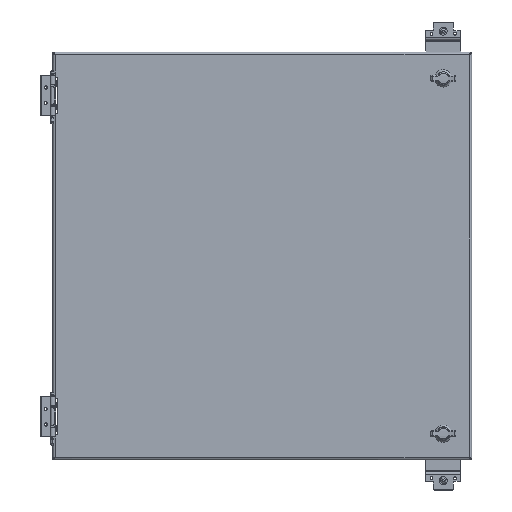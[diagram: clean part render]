
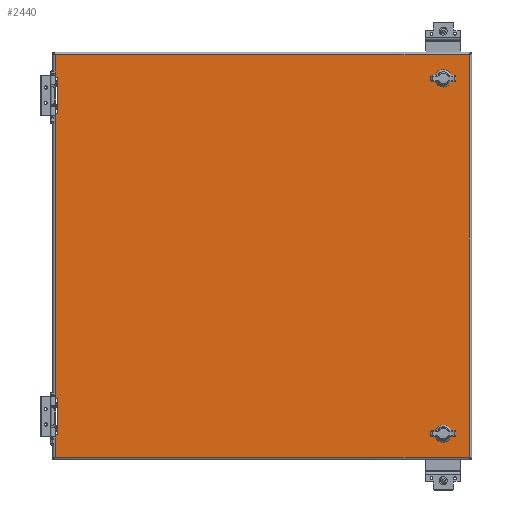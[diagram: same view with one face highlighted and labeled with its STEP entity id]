
A CAD part, top view. The second image highlights one B-rep face of the part: STEP entity #2440.
In plain terms, the highlighted planar face has unit normal (0, 0, 1).
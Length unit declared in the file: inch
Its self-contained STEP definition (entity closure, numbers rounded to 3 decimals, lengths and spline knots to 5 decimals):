
#16=CARTESIAN_POINT('',(11.545,11.325,0.));
#17=DIRECTION('',(0.,0.,1.));
#18=DIRECTION('',(-0.448,0.894,0.));
#19=AXIS2_PLACEMENT_3D('',#16,#17,#18);
#25=DIRECTION('',(0.,-1.,0.));
#26=VECTOR('',#25,0.39715);
#27=CARTESIAN_POINT('',(11.149,11.52358,0.));
#28=LINE('',#27,#26);
#32=CARTESIAN_POINT('',(11.545,11.325,0.));
#33=DIRECTION('',(0.,0.,1.));
#34=DIRECTION('',(-0.894,-0.448,0.));
#35=AXIS2_PLACEMENT_3D('',#32,#33,#34);
#40=DIRECTION('',(1.,0.,0.));
#41=VECTOR('',#40,0.39715);
#42=CARTESIAN_POINT('',(11.34642,10.929,0.));
#43=LINE('',#42,#41);
#47=CARTESIAN_POINT('',(11.545,11.325,0.));
#48=DIRECTION('',(0.,0.,1.));
#49=DIRECTION('',(0.448,-0.894,0.));
#50=AXIS2_PLACEMENT_3D('',#47,#48,#49);
#55=DIRECTION('',(0.,1.,0.));
#56=VECTOR('',#55,0.39715);
#57=CARTESIAN_POINT('',(11.941,11.12642,0.));
#58=LINE('',#57,#56);
#62=CARTESIAN_POINT('',(11.545,11.325,0.));
#63=DIRECTION('',(0.,0.,1.));
#64=DIRECTION('',(0.894,0.448,0.));
#65=AXIS2_PLACEMENT_3D('',#62,#63,#64);
#70=DIRECTION('',(-1.,0.,0.));
#71=VECTOR('',#70,0.39715);
#72=CARTESIAN_POINT('',(11.74358,11.721,0.));
#73=LINE('',#72,#71);
#77=CARTESIAN_POINT('',(11.545,-11.325,0.));
#78=DIRECTION('',(0.,0.,1.));
#79=DIRECTION('',(-0.448,0.894,0.));
#80=AXIS2_PLACEMENT_3D('',#77,#78,#79);
#85=DIRECTION('',(0.,-1.,0.));
#86=VECTOR('',#85,0.39715);
#87=CARTESIAN_POINT('',(11.149,-11.12642,0.));
#88=LINE('',#87,#86);
#92=CARTESIAN_POINT('',(11.545,-11.325,0.));
#93=DIRECTION('',(0.,0.,1.));
#94=DIRECTION('',(-0.894,-0.448,0.));
#95=AXIS2_PLACEMENT_3D('',#92,#93,#94);
#100=DIRECTION('',(1.,0.,0.));
#101=VECTOR('',#100,0.39715);
#102=CARTESIAN_POINT('',(11.34642,-11.721,0.));
#103=LINE('',#102,#101);
#107=CARTESIAN_POINT('',(11.545,-11.325,0.));
#108=DIRECTION('',(0.,0.,1.));
#109=DIRECTION('',(0.448,-0.894,0.));
#110=AXIS2_PLACEMENT_3D('',#107,#108,#109);
#115=DIRECTION('',(0.,1.,0.));
#116=VECTOR('',#115,0.39715);
#117=CARTESIAN_POINT('',(11.941,-11.52358,0.));
#118=LINE('',#117,#116);
#122=CARTESIAN_POINT('',(11.545,-11.325,0.));
#123=DIRECTION('',(0.,0.,1.));
#124=DIRECTION('',(0.894,0.448,0.));
#125=AXIS2_PLACEMENT_3D('',#122,#123,#124);
#130=DIRECTION('',(-1.,0.,0.));
#131=VECTOR('',#130,0.39715);
#132=CARTESIAN_POINT('',(11.74358,-10.929,0.));
#133=LINE('',#132,#131);
#137=DIRECTION('',(1.,0.,0.));
#138=VECTOR('',#137,0.092);
#139=CARTESIAN_POINT('',(-13.1935,-11.40625,0.));
#140=LINE('',#139,#138);
#144=DIRECTION('',(0.,1.,0.));
#145=VECTOR('',#144,2.1875);
#146=CARTESIAN_POINT('',(-13.039,-11.34375,0.));
#147=LINE('',#146,#145);
#151=DIRECTION('',(1.,0.,0.));
#152=VECTOR('',#151,0.092);
#153=CARTESIAN_POINT('',(-13.1935,-9.09375,0.));
#154=LINE('',#153,#152);
#158=DIRECTION('',(1.,0.,0.));
#159=VECTOR('',#158,0.092);
#160=CARTESIAN_POINT('',(-13.1935,9.09375,0.));
#161=LINE('',#160,#159);
#165=DIRECTION('',(0.,1.,0.));
#166=VECTOR('',#165,2.1875);
#167=CARTESIAN_POINT('',(-13.039,9.15625,0.));
#168=LINE('',#167,#166);
#172=DIRECTION('',(1.,0.,0.));
#173=VECTOR('',#172,0.092);
#174=CARTESIAN_POINT('',(-13.1935,11.40625,0.));
#175=LINE('',#174,#173);
#725=DIRECTION('',(0.,-1.,0.));
#726=VECTOR('',#725,25.684);
#727=CARTESIAN_POINT('',(13.1935,12.842,0.));
#728=LINE('',#727,#726);
#773=DIRECTION('',(1.,0.,0.));
#774=VECTOR('',#773,26.387);
#775=CARTESIAN_POINT('',(-13.1935,12.842,0.));
#776=LINE('',#775,#774);
#847=DIRECTION('',(0.,1.,0.));
#848=VECTOR('',#847,18.1875);
#849=CARTESIAN_POINT('',(-13.1935,-9.09375,0.));
#850=LINE('',#849,#848);
#889=DIRECTION('',(0.,1.,0.));
#890=VECTOR('',#889,1.43575);
#891=CARTESIAN_POINT('',(-13.1935,11.40625,0.));
#892=LINE('',#891,#890);
#946=DIRECTION('',(0.,1.,0.));
#947=VECTOR('',#946,1.43575);
#948=CARTESIAN_POINT('',(-13.1935,-12.842,0.));
#949=LINE('',#948,#947);
#1253=DIRECTION('',(-1.,0.,0.));
#1254=VECTOR('',#1253,26.387);
#1255=CARTESIAN_POINT('',(13.1935,-12.842,0.));
#1256=LINE('',#1255,#1254);
#1468=CARTESIAN_POINT('',(-13.1015,-9.15625,0.));
#1469=DIRECTION('',(0.,0.,-1.));
#1470=DIRECTION('',(0.,1.,0.));
#1471=AXIS2_PLACEMENT_3D('',#1468,#1469,#1470);
#1498=CARTESIAN_POINT('',(-13.1015,-11.34375,0.));
#1499=DIRECTION('',(0.,0.,-1.));
#1500=DIRECTION('',(1.,0.,0.));
#1501=AXIS2_PLACEMENT_3D('',#1498,#1499,#1500);
#1556=CARTESIAN_POINT('',(-13.1015,11.34375,0.));
#1557=DIRECTION('',(0.,0.,-1.));
#1558=DIRECTION('',(0.,1.,0.));
#1559=AXIS2_PLACEMENT_3D('',#1556,#1557,#1558);
#1586=CARTESIAN_POINT('',(-13.1015,9.15625,0.));
#1587=DIRECTION('',(0.,0.,-1.));
#1588=DIRECTION('',(1.,0.,0.));
#1589=AXIS2_PLACEMENT_3D('',#1586,#1587,#1588);
#2061=CARTESIAN_POINT('',(13.1935,12.842,0.));
#2062=CARTESIAN_POINT('',(13.1935,-12.842,0.));
#2063=VERTEX_POINT('',#2061);
#2064=VERTEX_POINT('',#2062);
#2085=CARTESIAN_POINT('',(11.34642,11.721,0.));
#2086=CARTESIAN_POINT('',(11.149,11.52358,0.));
#2087=VERTEX_POINT('',#2085);
#2088=VERTEX_POINT('',#2086);
#2089=CARTESIAN_POINT('',(11.149,11.12642,0.));
#2090=VERTEX_POINT('',#2089);
#2091=CARTESIAN_POINT('',(11.34642,10.929,0.));
#2092=VERTEX_POINT('',#2091);
#2093=CARTESIAN_POINT('',(11.74358,10.929,0.));
#2094=VERTEX_POINT('',#2093);
#2095=CARTESIAN_POINT('',(11.941,11.12642,0.));
#2096=VERTEX_POINT('',#2095);
#2097=CARTESIAN_POINT('',(11.941,11.52358,0.));
#2098=VERTEX_POINT('',#2097);
#2099=CARTESIAN_POINT('',(11.74358,11.721,0.));
#2100=VERTEX_POINT('',#2099);
#2117=CARTESIAN_POINT('',(11.34642,-10.929,0.));
#2118=CARTESIAN_POINT('',(11.149,-11.12642,0.));
#2119=VERTEX_POINT('',#2117);
#2120=VERTEX_POINT('',#2118);
#2121=CARTESIAN_POINT('',(11.149,-11.52358,0.));
#2122=VERTEX_POINT('',#2121);
#2123=CARTESIAN_POINT('',(11.34642,-11.721,0.));
#2124=VERTEX_POINT('',#2123);
#2125=CARTESIAN_POINT('',(11.74358,-11.721,0.));
#2126=VERTEX_POINT('',#2125);
#2127=CARTESIAN_POINT('',(11.941,-11.52358,0.));
#2128=VERTEX_POINT('',#2127);
#2129=CARTESIAN_POINT('',(11.941,-11.12642,0.));
#2130=VERTEX_POINT('',#2129);
#2131=CARTESIAN_POINT('',(11.74358,-10.929,0.));
#2132=VERTEX_POINT('',#2131);
#2174=CARTESIAN_POINT('',(-13.1935,12.842,0.));
#2176=VERTEX_POINT('',#2174);
#2181=CARTESIAN_POINT('',(-13.1935,-12.842,0.));
#2183=VERTEX_POINT('',#2181);
#2293=CARTESIAN_POINT('',(-13.1935,9.09375,0.));
#2294=VERTEX_POINT('',#2293);
#2295=CARTESIAN_POINT('',(-13.1935,11.40625,0.));
#2296=VERTEX_POINT('',#2295);
#2297=CARTESIAN_POINT('',(-13.1935,-11.40625,0.));
#2298=VERTEX_POINT('',#2297);
#2299=CARTESIAN_POINT('',(-13.1935,-9.09375,0.));
#2300=VERTEX_POINT('',#2299);
#2333=CARTESIAN_POINT('',(-13.1015,11.40625,0.));
#2335=VERTEX_POINT('',#2333);
#2337=CARTESIAN_POINT('',(-13.039,11.34375,0.));
#2339=VERTEX_POINT('',#2337);
#2341=CARTESIAN_POINT('',(-13.039,9.15625,0.));
#2343=VERTEX_POINT('',#2341);
#2345=CARTESIAN_POINT('',(-13.1015,9.09375,0.));
#2347=VERTEX_POINT('',#2345);
#2349=CARTESIAN_POINT('',(-13.039,-11.34375,0.));
#2351=VERTEX_POINT('',#2349);
#2353=CARTESIAN_POINT('',(-13.1015,-11.40625,0.));
#2355=VERTEX_POINT('',#2353);
#2357=CARTESIAN_POINT('',(-13.1015,-9.09375,0.));
#2359=VERTEX_POINT('',#2357);
#2361=CARTESIAN_POINT('',(-13.039,-9.15625,0.));
#2363=VERTEX_POINT('',#2361);
#2365=CARTESIAN_POINT('',(0.,0.,0.));
#2366=DIRECTION('',(0.,0.,-1.));
#2367=DIRECTION('',(1.,0.,0.));
#2368=AXIS2_PLACEMENT_3D('',#2365,#2366,#2367);
#2369=PLANE('',#2368);
#2371=ORIENTED_EDGE('',*,*,#2370,.T.);
#2373=ORIENTED_EDGE('',*,*,#2372,.T.);
#2375=ORIENTED_EDGE('',*,*,#2374,.T.);
#2377=ORIENTED_EDGE('',*,*,#2376,.F.);
#2379=ORIENTED_EDGE('',*,*,#2378,.T.);
#2381=ORIENTED_EDGE('',*,*,#2380,.F.);
#2383=ORIENTED_EDGE('',*,*,#2382,.F.);
#2385=ORIENTED_EDGE('',*,*,#2384,.T.);
#2387=ORIENTED_EDGE('',*,*,#2386,.T.);
#2389=ORIENTED_EDGE('',*,*,#2388,.F.);
#2391=ORIENTED_EDGE('',*,*,#2390,.T.);
#2393=ORIENTED_EDGE('',*,*,#2392,.F.);
#2395=ORIENTED_EDGE('',*,*,#2394,.F.);
#2397=ORIENTED_EDGE('',*,*,#2396,.T.);
#2399=ORIENTED_EDGE('',*,*,#2398,.T.);
#2401=ORIENTED_EDGE('',*,*,#2400,.T.);
#2402=EDGE_LOOP('',(#2371,#2373,#2375,#2377,#2379,#2381,#2383,#2385,#2387,#2389,
#2391,#2393,#2395,#2397,#2399,#2401));
#2403=FACE_OUTER_BOUND('',#2402,.F.);
#2405=ORIENTED_EDGE('',*,*,#2404,.T.);
#2407=ORIENTED_EDGE('',*,*,#2406,.T.);
#2409=ORIENTED_EDGE('',*,*,#2408,.T.);
#2411=ORIENTED_EDGE('',*,*,#2410,.T.);
#2413=ORIENTED_EDGE('',*,*,#2412,.T.);
#2415=ORIENTED_EDGE('',*,*,#2414,.T.);
#2417=ORIENTED_EDGE('',*,*,#2416,.T.);
#2419=ORIENTED_EDGE('',*,*,#2418,.T.);
#2420=EDGE_LOOP('',(#2405,#2407,#2409,#2411,#2413,#2415,#2417,#2419));
#2421=FACE_BOUND('',#2420,.F.);
#2423=ORIENTED_EDGE('',*,*,#2422,.T.);
#2425=ORIENTED_EDGE('',*,*,#2424,.T.);
#2427=ORIENTED_EDGE('',*,*,#2426,.T.);
#2429=ORIENTED_EDGE('',*,*,#2428,.T.);
#2431=ORIENTED_EDGE('',*,*,#2430,.T.);
#2433=ORIENTED_EDGE('',*,*,#2432,.T.);
#2435=ORIENTED_EDGE('',*,*,#2434,.T.);
#2437=ORIENTED_EDGE('',*,*,#2436,.T.);
#2438=EDGE_LOOP('',(#2423,#2425,#2427,#2429,#2431,#2433,#2435,#2437));
#2439=FACE_BOUND('',#2438,.F.);
#20=CIRCLE('',#19,0.443);
#36=CIRCLE('',#35,0.443);
#51=CIRCLE('',#50,0.443);
#66=CIRCLE('',#65,0.443);
#81=CIRCLE('',#80,0.443);
#96=CIRCLE('',#95,0.443);
#111=CIRCLE('',#110,0.443);
#126=CIRCLE('',#125,0.443);
#1472=CIRCLE('',#1471,0.0625);
#1502=CIRCLE('',#1501,0.0625);
#1560=CIRCLE('',#1559,0.0625);
#1590=CIRCLE('',#1589,0.0625);
#2370=EDGE_CURVE('',#2064,#2183,#1256,.T.);
#2372=EDGE_CURVE('',#2183,#2298,#949,.T.);
#2374=EDGE_CURVE('',#2298,#2355,#140,.T.);
#2376=EDGE_CURVE('',#2351,#2355,#1502,.T.);
#2378=EDGE_CURVE('',#2351,#2363,#147,.T.);
#2380=EDGE_CURVE('',#2359,#2363,#1472,.T.);
#2382=EDGE_CURVE('',#2300,#2359,#154,.T.);
#2384=EDGE_CURVE('',#2300,#2294,#850,.T.);
#2386=EDGE_CURVE('',#2294,#2347,#161,.T.);
#2388=EDGE_CURVE('',#2343,#2347,#1590,.T.);
#2390=EDGE_CURVE('',#2343,#2339,#168,.T.);
#2392=EDGE_CURVE('',#2335,#2339,#1560,.T.);
#2394=EDGE_CURVE('',#2296,#2335,#175,.T.);
#2396=EDGE_CURVE('',#2296,#2176,#892,.T.);
#2398=EDGE_CURVE('',#2176,#2063,#776,.T.);
#2400=EDGE_CURVE('',#2063,#2064,#728,.T.);
#2404=EDGE_CURVE('',#2119,#2120,#81,.T.);
#2406=EDGE_CURVE('',#2120,#2122,#88,.T.);
#2408=EDGE_CURVE('',#2122,#2124,#96,.T.);
#2410=EDGE_CURVE('',#2124,#2126,#103,.T.);
#2412=EDGE_CURVE('',#2126,#2128,#111,.T.);
#2414=EDGE_CURVE('',#2128,#2130,#118,.T.);
#2416=EDGE_CURVE('',#2130,#2132,#126,.T.);
#2418=EDGE_CURVE('',#2132,#2119,#133,.T.);
#2422=EDGE_CURVE('',#2087,#2088,#20,.T.);
#2424=EDGE_CURVE('',#2088,#2090,#28,.T.);
#2426=EDGE_CURVE('',#2090,#2092,#36,.T.);
#2428=EDGE_CURVE('',#2092,#2094,#43,.T.);
#2430=EDGE_CURVE('',#2094,#2096,#51,.T.);
#2432=EDGE_CURVE('',#2096,#2098,#58,.T.);
#2434=EDGE_CURVE('',#2098,#2100,#66,.T.);
#2436=EDGE_CURVE('',#2100,#2087,#73,.T.);
#2440=ADVANCED_FACE('',(#2403,#2421,#2439),#2369,.F.);
